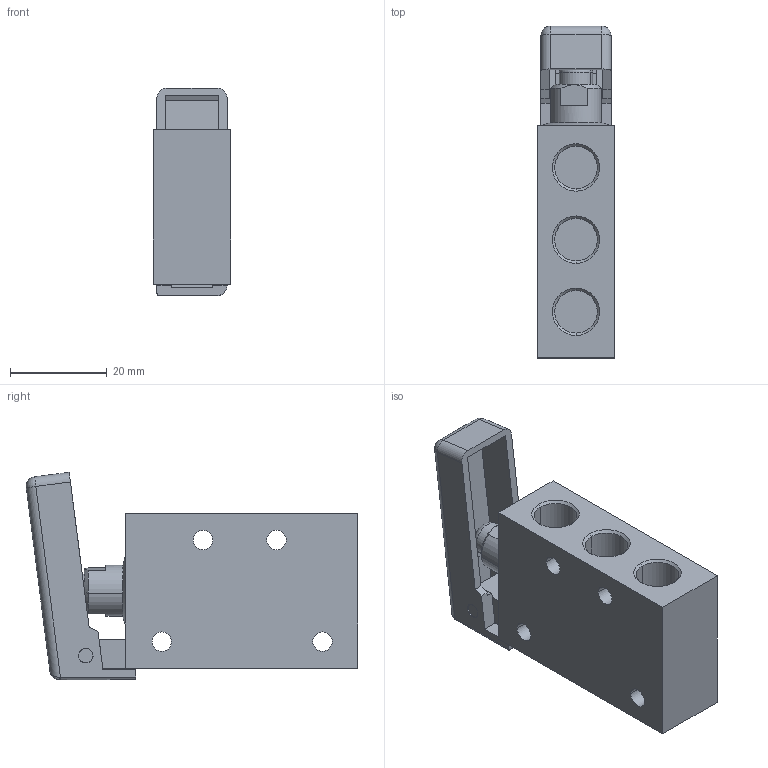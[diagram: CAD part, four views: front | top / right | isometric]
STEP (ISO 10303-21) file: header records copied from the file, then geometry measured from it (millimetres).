
FILE_DESCRIPTION (( 'STEP AP214' ), '1' );
FILE_NAME ('05_149_4.STEP', '2016-02-26T16:36:09', ( '' ), ( '' ), 'SwSTEP 2.0', 'SolidWorks 2016', '' );
FILE_SCHEMA (( 'AUTOMOTIVE_DESIGN' ));
Length unit declared in the file: millimetre
Products named in the file (1): 05_149_4
Bounding box: 16 x 68.51 x 42.83 mm (x, y, z)
Volume: 26434.4 mm3; surface area: 11967.1 mm2
Topology: 4 solids, 4 shells, 112 faces, 263 edges, 162 vertices
Faces by surface type: plane 47, cylinder 42, cone 16, sphere 3, torus 2, bspline 2
Entity records: 3627 total; most frequent: CARTESIAN_POINT 854, DIRECTION 574, ORIENTED_EDGE 518, EDGE_CURVE 259, AXIS2_PLACEMENT_3D 213, VERTEX_POINT 162, VECTOR 148, LINE 148
